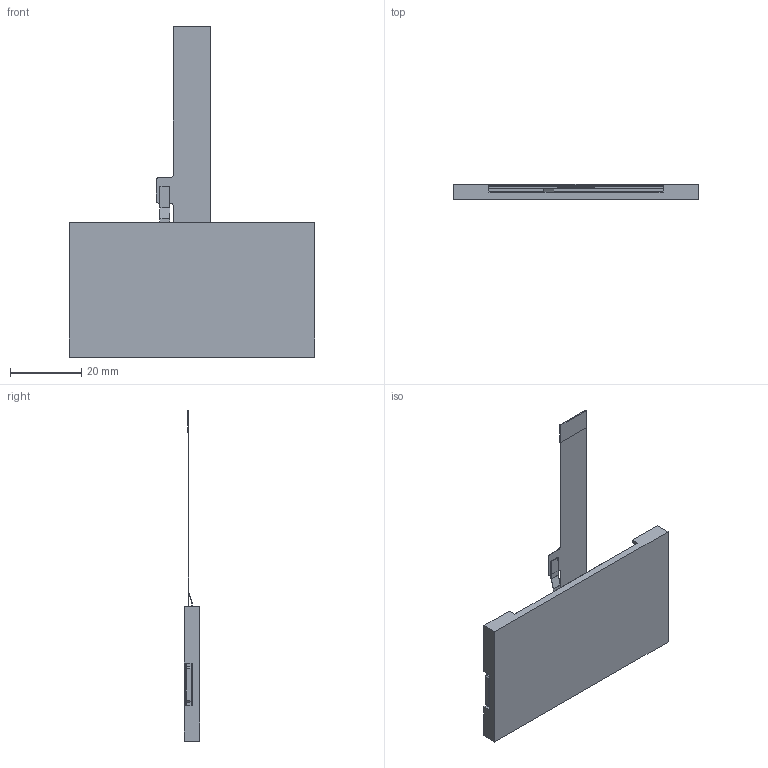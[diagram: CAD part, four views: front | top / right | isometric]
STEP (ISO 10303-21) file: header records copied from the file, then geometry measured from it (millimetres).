
FILE_DESCRIPTION (( 'STEP AP203' ), '1' );
FILE_NAME ('NHD-C0420AZ.STEP', '2026-02-16T21:27:07', ( '' ), ( '' ), 'SwSTEP 2.0', 'SolidWorks 2019', '' );
FILE_SCHEMA (( 'CONFIG_CONTROL_DESIGN' ));
Length unit declared in the file: millimetre
Products named in the file (1): NHD-C0420AZ
Bounding box: 69 x 4.3 x 93 mm (x, y, z)
Volume: 9855.1 mm3; surface area: 12957.9 mm2
Topology: 2 solids, 2 shells, 80 faces, 208 edges, 136 vertices
Faces by surface type: plane 72, cylinder 8
Entity records: 2479 total; most frequent: CARTESIAN_POINT 425, ORIENTED_EDGE 416, DIRECTION 386, EDGE_CURVE 208, LINE 192, VECTOR 192, VERTEX_POINT 136, AXIS2_PLACEMENT_3D 97
